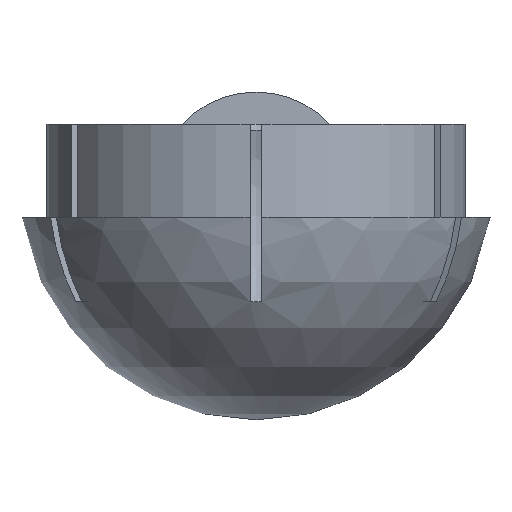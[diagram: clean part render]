
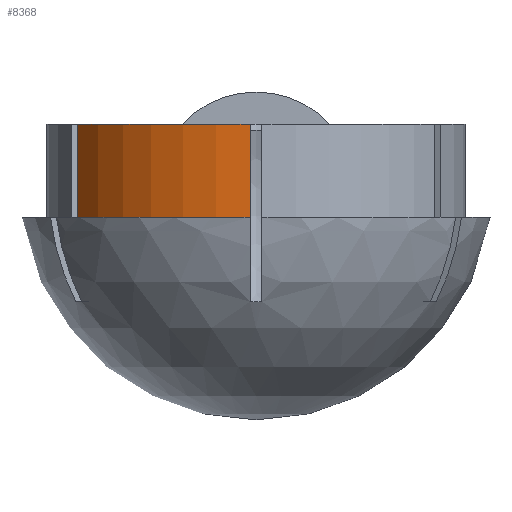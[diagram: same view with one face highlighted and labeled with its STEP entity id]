
A CAD part, left-side view. The second image highlights one B-rep face of the part: STEP entity #8368.
In plain terms, the highlighted cylindrical face has radius 6.2 mm (diameter 12.4 mm), a partial arc.
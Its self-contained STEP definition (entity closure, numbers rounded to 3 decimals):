
#3191 = PLANE('',#3192);
#3192 = AXIS2_PLACEMENT_3D('',#3193,#3194,#3195);
#3193 = CARTESIAN_POINT('',(0.,0.175,-3.5));
#3194 = DIRECTION('',(0.,-1.,0.));
#3195 = DIRECTION('',(0.,0.,1.));
#3220 = PLANE('',#3221);
#3221 = AXIS2_PLACEMENT_3D('',#3222,#3223,#3224);
#3222 = CARTESIAN_POINT('',(0.,0.,-1.)
  );
#3223 = DIRECTION('',(0.,0.,1.));
#3224 = DIRECTION('',(1.,0.,-0.));
#3254 = PLANE('',#3255);
#3255 = AXIS2_PLACEMENT_3D('',#3256,#3257,#3258);
#3256 = CARTESIAN_POINT('',(-0.152,-0.088,-3.5));
#3257 = DIRECTION('',(-0.866,-0.5,0.));
#3258 = DIRECTION('',(0.,0.,1.));
#6470 = VERTEX_POINT('',#6471);
#6471 = CARTESIAN_POINT('',(-3.25,5.28,1.76));
#6484 = PLANE('',#6485);
#6485 = AXIS2_PLACEMENT_3D('',#6486,#6487,#6488);
#6486 = CARTESIAN_POINT('',(-7.,-8.,1.76));
#6487 = DIRECTION('',(0.,0.,1.));
#6488 = DIRECTION('',(1.,0.,0.));
#6495 = EDGE_CURVE('',#6470,#6496,#6498,.T.);
#6496 = VERTEX_POINT('',#6497);
#6497 = CARTESIAN_POINT('',(-3.25,5.28,-1.));
#6498 = SURFACE_CURVE('',#6499,(#6503,#6509),.PCURVE_S1.);
#6499 = LINE('',#6500,#6501);
#6500 = CARTESIAN_POINT('',(-3.25,5.28,-1.));
#6501 = VECTOR('',#6502,1.);
#6502 = DIRECTION('',(-0.,-0.,-1.));
#6503 = PCURVE('',#3254,#6504);
#6504 = DEFINITIONAL_REPRESENTATION('',(#6505),#6508);
#6505 = B_SPLINE_CURVE_WITH_KNOTS('',1,(#6506,#6507),.UNSPECIFIED.,.F.,
  .F.,(2,2),(-2.76,0.),.PIECEWISE_BEZIER_KNOTS.);
#6506 = CARTESIAN_POINT('',(5.26,6.198));
#6507 = CARTESIAN_POINT('',(2.5,6.198));
#6508 = ( GEOMETRIC_REPRESENTATION_CONTEXT(2) 
PARAMETRIC_REPRESENTATION_CONTEXT() REPRESENTATION_CONTEXT('2D SPACE',''
  ) );
#6509 = PCURVE('',#6510,#6515);
#6510 = CYLINDRICAL_SURFACE('',#6511,6.2);
#6511 = AXIS2_PLACEMENT_3D('',#6512,#6513,#6514);
#6512 = CARTESIAN_POINT('',(0.,0.,-1.));
#6513 = DIRECTION('',(-0.,-0.,-1.));
#6514 = DIRECTION('',(1.,0.,0.));
#6515 = DEFINITIONAL_REPRESENTATION('',(#6516),#6519);
#6516 = B_SPLINE_CURVE_WITH_KNOTS('',1,(#6517,#6518),.UNSPECIFIED.,.F.,
  .F.,(2,2),(-2.76,0.),.PIECEWISE_BEZIER_KNOTS.);
#6517 = CARTESIAN_POINT('',(-2.123,-2.76));
#6518 = CARTESIAN_POINT('',(-2.123,0.));
#6519 = ( GEOMETRIC_REPRESENTATION_CONTEXT(2) 
PARAMETRIC_REPRESENTATION_CONTEXT() REPRESENTATION_CONTEXT('2D SPACE',''
  ) );
#6544 = EDGE_CURVE('',#6496,#6545,#6547,.T.);
#6545 = VERTEX_POINT('',#6546);
#6546 = CARTESIAN_POINT('',(-6.198,0.175,-1.));
#6547 = SURFACE_CURVE('',#6548,(#6553,#6560),.PCURVE_S1.);
#6548 = CIRCLE('',#6549,6.2);
#6549 = AXIS2_PLACEMENT_3D('',#6550,#6551,#6552);
#6550 = CARTESIAN_POINT('',(0.,0.,-1.));
#6551 = DIRECTION('',(0.,0.,1.));
#6552 = DIRECTION('',(1.,0.,0.));
#6553 = PCURVE('',#3220,#6554);
#6554 = DEFINITIONAL_REPRESENTATION('',(#6555),#6559);
#6555 = CIRCLE('',#6556,6.2);
#6556 = AXIS2_PLACEMENT_2D('',#6557,#6558);
#6557 = CARTESIAN_POINT('',(0.,0.));
#6558 = DIRECTION('',(1.,0.));
#6559 = ( GEOMETRIC_REPRESENTATION_CONTEXT(2) 
PARAMETRIC_REPRESENTATION_CONTEXT() REPRESENTATION_CONTEXT('2D SPACE',''
  ) );
#6560 = PCURVE('',#6510,#6561);
#6561 = DEFINITIONAL_REPRESENTATION('',(#6562),#6566);
#6562 = LINE('',#6563,#6564);
#6563 = CARTESIAN_POINT('',(-0.,0.));
#6564 = VECTOR('',#6565,1.);
#6565 = DIRECTION('',(-1.,0.));
#6566 = ( GEOMETRIC_REPRESENTATION_CONTEXT(2) 
PARAMETRIC_REPRESENTATION_CONTEXT() REPRESENTATION_CONTEXT('2D SPACE',''
  ) );
#6678 = VERTEX_POINT('',#6679);
#6679 = CARTESIAN_POINT('',(-6.198,0.175,1.76));
#6698 = EDGE_CURVE('',#6678,#6545,#6699,.T.);
#6699 = SURFACE_CURVE('',#6700,(#6704,#6710),.PCURVE_S1.);
#6700 = LINE('',#6701,#6702);
#6701 = CARTESIAN_POINT('',(-6.198,0.175,-1.));
#6702 = VECTOR('',#6703,1.);
#6703 = DIRECTION('',(-0.,-0.,-1.));
#6704 = PCURVE('',#3191,#6705);
#6705 = DEFINITIONAL_REPRESENTATION('',(#6706),#6709);
#6706 = B_SPLINE_CURVE_WITH_KNOTS('',1,(#6707,#6708),.UNSPECIFIED.,.F.,
  .F.,(2,2),(-2.76,0.),.PIECEWISE_BEZIER_KNOTS.);
#6707 = CARTESIAN_POINT('',(5.26,6.198));
#6708 = CARTESIAN_POINT('',(2.5,6.198));
#6709 = ( GEOMETRIC_REPRESENTATION_CONTEXT(2) 
PARAMETRIC_REPRESENTATION_CONTEXT() REPRESENTATION_CONTEXT('2D SPACE',''
  ) );
#6710 = PCURVE('',#6510,#6711);
#6711 = DEFINITIONAL_REPRESENTATION('',(#6712),#6715);
#6712 = B_SPLINE_CURVE_WITH_KNOTS('',1,(#6713,#6714),.UNSPECIFIED.,.F.,
  .F.,(2,2),(-2.76,0.),.PIECEWISE_BEZIER_KNOTS.);
#6713 = CARTESIAN_POINT('',(-3.113,-2.76));
#6714 = CARTESIAN_POINT('',(-3.113,0.));
#6715 = ( GEOMETRIC_REPRESENTATION_CONTEXT(2) 
PARAMETRIC_REPRESENTATION_CONTEXT() REPRESENTATION_CONTEXT('2D SPACE',''
  ) );
#8368 = ADVANCED_FACE('',(#8369),#6510,.T.);
#8369 = FACE_BOUND('',#8370,.F.);
#8370 = EDGE_LOOP('',(#8371,#8372,#8373,#8399));
#8371 = ORIENTED_EDGE('',*,*,#6544,.F.);
#8372 = ORIENTED_EDGE('',*,*,#6495,.F.);
#8373 = ORIENTED_EDGE('',*,*,#8374,.F.);
#8374 = EDGE_CURVE('',#6678,#6470,#8375,.T.);
#8375 = SURFACE_CURVE('',#8376,(#8381,#8388),.PCURVE_S1.);
#8376 = CIRCLE('',#8377,6.2);
#8377 = AXIS2_PLACEMENT_3D('',#8378,#8379,#8380);
#8378 = CARTESIAN_POINT('',(0.,0.,1.76));
#8379 = DIRECTION('',(0.,0.,-1.));
#8380 = DIRECTION('',(1.,0.,0.));
#8381 = PCURVE('',#6510,#8382);
#8382 = DEFINITIONAL_REPRESENTATION('',(#8383),#8387);
#8383 = LINE('',#8384,#8385);
#8384 = CARTESIAN_POINT('',(-6.283,-2.76));
#8385 = VECTOR('',#8386,1.);
#8386 = DIRECTION('',(1.,-0.));
#8387 = ( GEOMETRIC_REPRESENTATION_CONTEXT(2) 
PARAMETRIC_REPRESENTATION_CONTEXT() REPRESENTATION_CONTEXT('2D SPACE',''
  ) );
#8388 = PCURVE('',#6484,#8389);
#8389 = DEFINITIONAL_REPRESENTATION('',(#8390),#8398);
#8390 = ( BOUNDED_CURVE() B_SPLINE_CURVE(2,(#8391,#8392,#8393,#8394,
#8395,#8396,#8397),.UNSPECIFIED.,.T.,.F.) B_SPLINE_CURVE_WITH_KNOTS((1,2
    ,2,2,2,1),(-2.094,0.,2.094,4.189,
6.283,8.378),.UNSPECIFIED.) CURVE() 
GEOMETRIC_REPRESENTATION_ITEM() RATIONAL_B_SPLINE_CURVE((1.,0.5,1.,0.5,
1.,0.5,1.)) REPRESENTATION_ITEM('') );
#8391 = CARTESIAN_POINT('',(13.2,8.));
#8392 = CARTESIAN_POINT('',(13.2,-2.739));
#8393 = CARTESIAN_POINT('',(3.9,2.631));
#8394 = CARTESIAN_POINT('',(-5.4,8.));
#8395 = CARTESIAN_POINT('',(3.9,13.369));
#8396 = CARTESIAN_POINT('',(13.2,18.739));
#8397 = CARTESIAN_POINT('',(13.2,8.));
#8398 = ( GEOMETRIC_REPRESENTATION_CONTEXT(2) 
PARAMETRIC_REPRESENTATION_CONTEXT() REPRESENTATION_CONTEXT('2D SPACE',''
  ) );
#8399 = ORIENTED_EDGE('',*,*,#6698,.T.);
